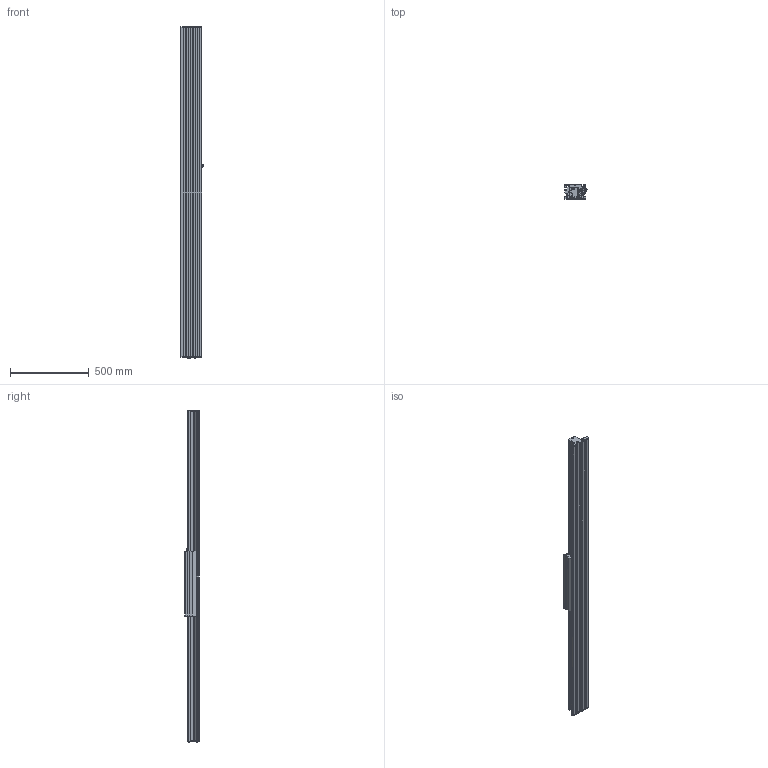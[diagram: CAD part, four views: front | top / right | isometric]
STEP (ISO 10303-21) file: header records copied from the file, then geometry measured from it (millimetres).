
FILE_DESCRIPTION (( 'STEP AP214' ), '1' );
FILE_NAME ('SINADRIVES Linear Motor Stage MLL20630XS-XX-1-0-ST-00-02100.STEP', '2015-07-07T07:58:55', ( 'Tecnico' ), ( '' ), 'SwSTEP 2.0', 'SolidWorks 2009', '' );
FILE_SCHEMA (( 'AUTOMOTIVE_DESIGN' ));
Length unit declared in the file: millimetre
Products named in the file (7): SINADRIVES CARRIAGE MLL20630XS-1; CARRIAGE MLL20630; Connector power+signal Y-tec 45; SINADRIVES PROFILE MLL2XXXX-2084; SINADRIVES ENDBLOCK MLL2; SINADRIVES ENDBLOCK MLL2-2; SINADRIVES Linear Motor Stage MLL20630XS-XX-1-0-ST-00-02100
Assembly tree (6 placements, depth 3):
  SINADRIVES Linear Motor Stage MLL20630XS-XX-1-0-ST-00-02100
    SINADRIVES ENDBLOCK MLL2-2
    SINADRIVES ENDBLOCK MLL2
    SINADRIVES CARRIAGE MLL20630XS-1
      CARRIAGE MLL20630
      Connector power+signal Y-tec 45
    SINADRIVES PROFILE MLL2XXXX-2084
Bounding box: 144.43 x 91 x 2108.8 mm (x, y, z)
Volume: 10663950.4 mm3; surface area: 1816489.8 mm2
Topology: 2 solids, 42 shells, 950 faces, 2640 edges, 1730 vertices
Faces by surface type: plane 445, cylinder 302, bspline 79, cone 70, torus 42, sphere 12
Entity records: 40587 total; most frequent: CARTESIAN_POINT 8656, ORIENTED_EDGE 5024, DIRECTION 4947, EDGE_CURVE 2622, AXIS2_PLACEMENT_3D 1781, VERTEX_POINT 1730, LINE 1385, VECTOR 1385
